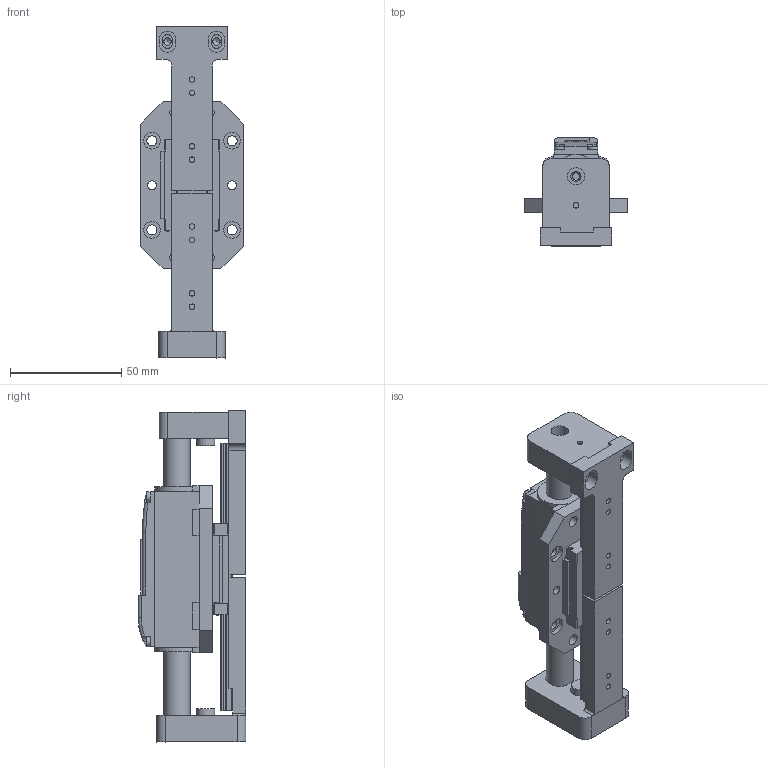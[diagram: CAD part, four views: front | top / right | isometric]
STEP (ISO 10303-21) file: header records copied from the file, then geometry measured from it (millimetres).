
FILE_DESCRIPTION(('FreeCAD Model'),'2;1');
FILE_NAME('C:/Users/Patrik/Desktop/FreeCAD/0000-0200 Lineární aktuátor, LM statický/LA_LMMR-09-040.step','2019-04-22T20:13:13',('Author'),(''), 'Open CASCADE STEP processor 7.3','FreeCAD','Unknown');
FILE_SCHEMA(('AUTOMOTIVE_DESIGN { 1 0 10303 214 1 1 1 1 }'));
Length unit declared in the file: millimetre
Products named in the file (14): Zdvih_40; Static002; Alle_Motoren005; LG008; LG007; Chamfer001; Moving002; Alle_Motoren002; Pocket005; LG006; Body007; Body008; _K0571.00800859; _K0571.00800860
Assembly tree (13 placements, depth 4):
  Zdvih_40
    Static002
      Alle_Motoren005
      LG008
        LG007
      Chamfer001
    Moving002
      Alle_Motoren002
      Pocket005
      LG006
      Body007
      Body008
      _K0571.00800859
      _K0571.00800860
Bounding box: 46 x 48.4 x 149 mm (x, y, z)
Volume: 114365.2 mm3; surface area: 52876 mm2
Topology: 10 solids, 10 shells, 556 faces, 1386 edges, 906 vertices
Faces by surface type: plane 304, cylinder 215, cone 21, revolution 8, torus 6, extrusion 2
Full cylindrical faces by diameter (mm): 2.05 x4, 2.5 x10, 3 x6, 3.3 x8, 3.5 x4, 4 x5, 4.5 x8, 4.6 x2, 5 x4, 6 x4, 7.5 x8, 7.7 x2, 8 x2, 9 x2, 12 x1, 12.08 x1, 12.4 x2, 19.9 x2
Entity records: 36671 total; most frequent: CARTESIAN_POINT 8706, DIRECTION 5155, VECTOR 2922, LINE 2920, ORIENTED_EDGE 2738, PCURVE 2738, DEFINITIONAL_REPRESENTATION 2738, EDGE_CURVE 1369
